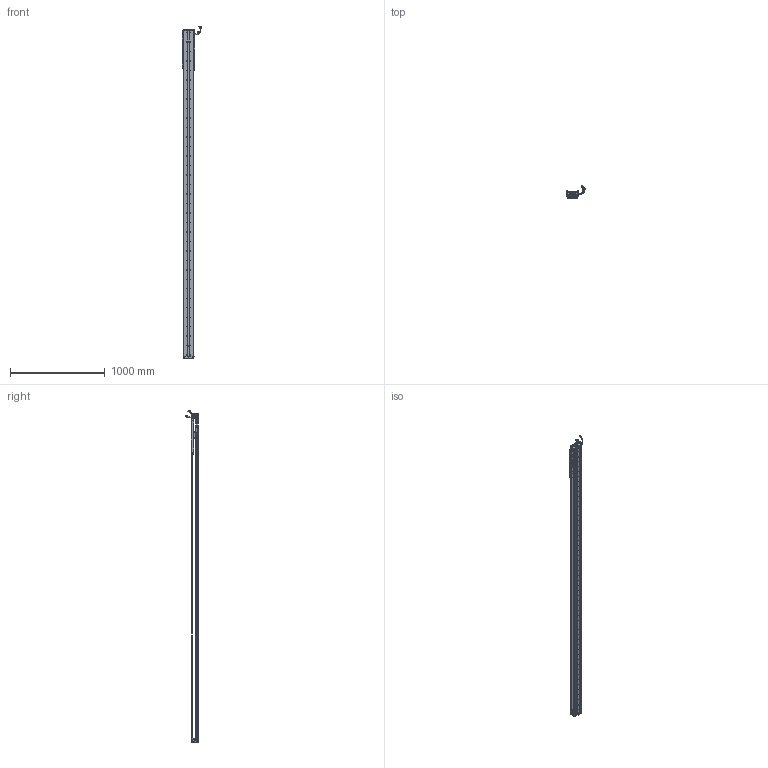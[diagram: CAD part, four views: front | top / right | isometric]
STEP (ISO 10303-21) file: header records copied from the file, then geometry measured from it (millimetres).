
FILE_DESCRIPTION (( 'STEP AP203' ), '1' );
FILE_NAME ('Z5-RY100D-1-L500-B-K.SLDASM_3000.step', '2021-05-17T03:35:55', ( '盈信电脑' ), ( '东莞市道滘镇水果街19号' ), 'SwSTEP 2.0', 'SolidWorks 2016', '' );
FILE_SCHEMA (( 'CONFIG_CONTROL_DESIGN' ));
Length unit declared in the file: millimetre
Products named in the file (36): Z-RY100D詩湍奻揤裔; SCALE-Part-1; SEAL; SCREW-M1.6-1; HARNESS-Part-2; SCREW-M1.6; Z5-RY100-L500詩湍90mm遵_3000; SCREW-M1.6-3; 覜茼ん672; PBU_SHEET; LABEL-Part-1; SHIELDPLATE; Z-100詩湍傷裔啣; SCREW-M1.7-1; 140雄赽晤鎢ん堤盄; Z-RY100D詩湍狟揤裔; 080黍杅芛假蚾釱21遴; Z-RY100D覜茼んえ; PSLH080_PSLF2; SEAL-Part-1; COVER; Z5-RY100铝滑块（21款）; SCALE-Part-2; SCREW-M1.7; 100-Z-臏賑輸盄裔(21遴); 榋妏寠巭燃_暯_M2_2; HARNESS; SCREW-M1.6-2; SCALE; COVER-Part-1; HARNESS-Part-1; Z5-RY100D-500-倰第菁釱_3000; 140蚥薯蝶輸; HOLDER0; LABEL; Z5-RY100D-1-L500-B-K.SLDASM_3000
Assembly tree (43 placements, depth 4):
  Z5-RY100D-1-L500-B-K.SLDASM_3000
    Z5-RY100D-500-倰第菁釱_3000
    Z5-RY100铝滑块（21款）
    PSLH080_PSLF2
      SCALE
        SCALE-Part-1
        SCALE-Part-2
      HARNESS
        HARNESS-Part-1
        HARNESS-Part-2
      LABEL
        LABEL-Part-1
      COVER
        COVER-Part-1
      SEAL
        SEAL-Part-1
      榋妏寠巭燃_暯_M2_2
      SHIELDPLATE
      SCREW-M1.7
      SCREW-M1.7-1
      PBU_SHEET
      SCREW-M1.6
      SCREW-M1.6-1
      SCREW-M1.6-2
      SCREW-M1.6-3
      HOLDER0
    080黍杅芛假蚾釱21遴
    Z-100詩湍傷裔啣  x2
    140蚥薯蝶輸  x2
    覜茼ん672  x3
    Z-RY100D覜茼んえ  x3
    100-Z-臏賑輸盄裔(21遴)
    140雄赽晤鎢ん堤盄
    Z5-RY100-L500詩湍90mm遵_3000
    Z-RY100D詩湍狟揤裔  x2
    Z-RY100D詩湍奻揤裔  x2
Bounding box: 205.79 x 136.11 x 3500.43 mm (x, y, z)
Volume: 6429365.5 mm3; surface area: 2513931.6 mm2
Topology: 38 solids, 38 shells, 3247 faces, 9001 edges, 5768 vertices
Faces by surface type: cylinder 1678, plane 1221, cone 226, torus 69, bspline 53
Entity records: 96479 total; most frequent: CARTESIAN_POINT 20143, DIRECTION 15679, ORIENTED_EDGE 14882, EDGE_CURVE 7441, AXIS2_PLACEMENT_3D 5948, VERTEX_POINT 4836, LINE 3783, VECTOR 3783
